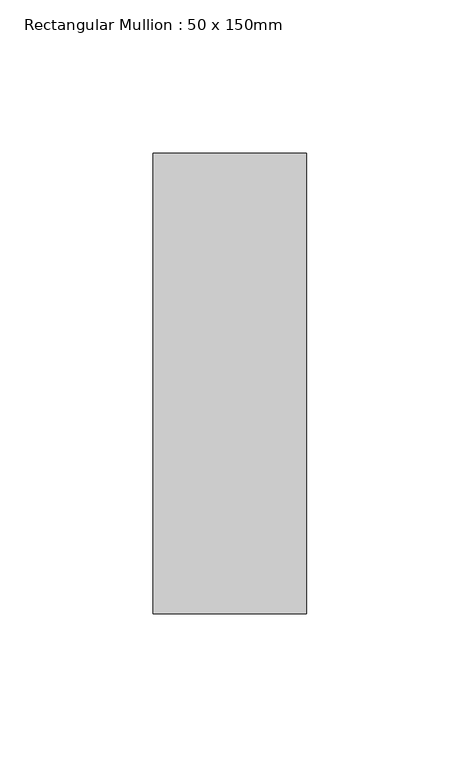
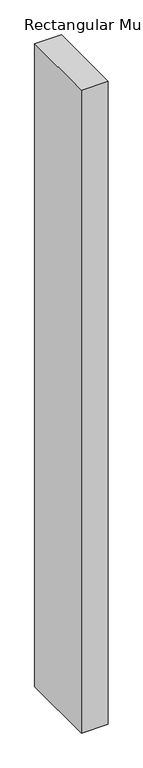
"""IFC4 building model written with IfcOpenShell, lengths in millimetres: member geometry, Rectangular Mullion : 50 x 150mm."""

from ifc_helpers import new_model, si_unit, frame, origin, place, context, project, spatial, polyline, outline, extrude, source, transform, mapped, element, save


def rectangular_mullion_50_x_150mm_53f686a5(model_context):
    return source(origin(), model_context, "Body", "SweptSolid", [
        extrude(outline(polyline([(0.0, 75.0), (0.0, -75.0), (-50.0, -75.0), (-50.0, 75.0), (0.0, 75.0)])), frame((0.0, 0.0, -1262.5000002), z_axis=(0.0, 0.0, 1.0), x_axis=(1.0, 0.0, 0.0)), (0.0, 0.0, 1.0), 1262.5000002),
    ])


if __name__ == "__main__":
    model = new_model("IFC4")
    model_context = context("Model", 3, world=origin())
    ifc_project = project(units=[si_unit("LENGTHUNIT", "METRE", prefix="MILLI")], contexts=[model_context])
    site = spatial("IfcSite", under=ifc_project)
    building = spatial("IfcBuilding", under=site)
    placement = place(None, origin())
    rectangular_mullion_50_x_150mm_shape = rectangular_mullion_50_x_150mm_53f686a5(model_context)
    element("IfcMember", 1, ObjectType="Rectangular Mullion : 50 x 150mm", at=placement, inside=building, context=model_context, shape_type="MappedRepresentation", body=[
        mapped(rectangular_mullion_50_x_150mm_shape, transform((0.0, 0.0, 0.0), x_axis=(1.0, 0.0, 0.0), y_axis=(0.0, 1.0, 0.0), z_axis=(0.0, 0.0, 1.0))),
    ])
    save(model, "model.ifc")
